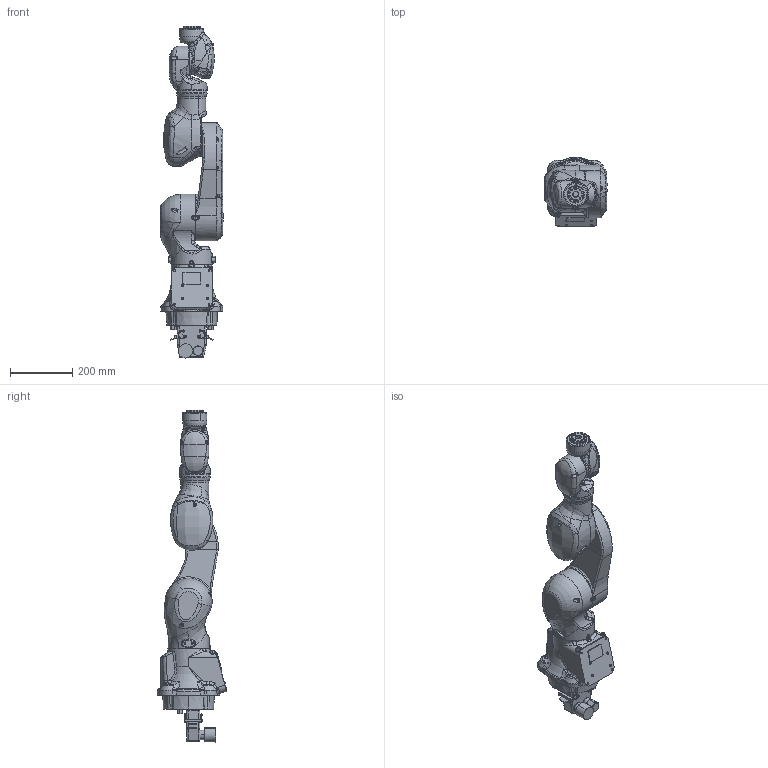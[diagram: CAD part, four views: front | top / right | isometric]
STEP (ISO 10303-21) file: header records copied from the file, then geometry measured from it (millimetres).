
FILE_DESCRIPTION(('CATIA V5 STEP Exchange','CAx-IF Rec.Pracs.--- Composite Materials ---3.4---2017-06-13'),'2;1');
FILE_NAME('D:\モデリング\☆☆☆STEP\MC\MC004N\220304_MC004N-B004\軽量化\Part\MC004N-B004.stp','2022-03-11T03:44:21+00:00',('none'),('none'),'CATIA Version 5-6 Release 2020 SP4 HF11','CATIA V5 STEP AP203 v2','none');
FILE_SCHEMA(('CONFIG_CONTROL_DESIGN'));
Length unit declared in the file: millimetre
Products named in the file (1): MC004N-B004
Assembly tree (7 placements, depth 2):
  MC004N-B004
    #57
    #31771
    #40550
    #50598
    #59400
    #65901
    #77024
Bounding box: 201.65 x 221.58 x 1065.74 mm (x, y, z)
Volume: 15595060.5 mm3; surface area: 753926.5 mm2
Topology: 8 solids, 8 shells, 1693 faces, 4232 edges, 2585 vertices
Faces by surface type: cylinder 588, bspline 439, plane 419, cone 127, torus 79, sphere 25, revolution 16
Entity records: 79411 total; most frequent: CARTESIAN_POINT 45569, ORIENTED_EDGE 8274, DIRECTION 4356, EDGE_CURVE 4137, VERTEX_POINT 2585, AXIS2_PLACEMENT_3D 2283, EDGE_LOOP 1840, ADVANCED_FACE 1693
